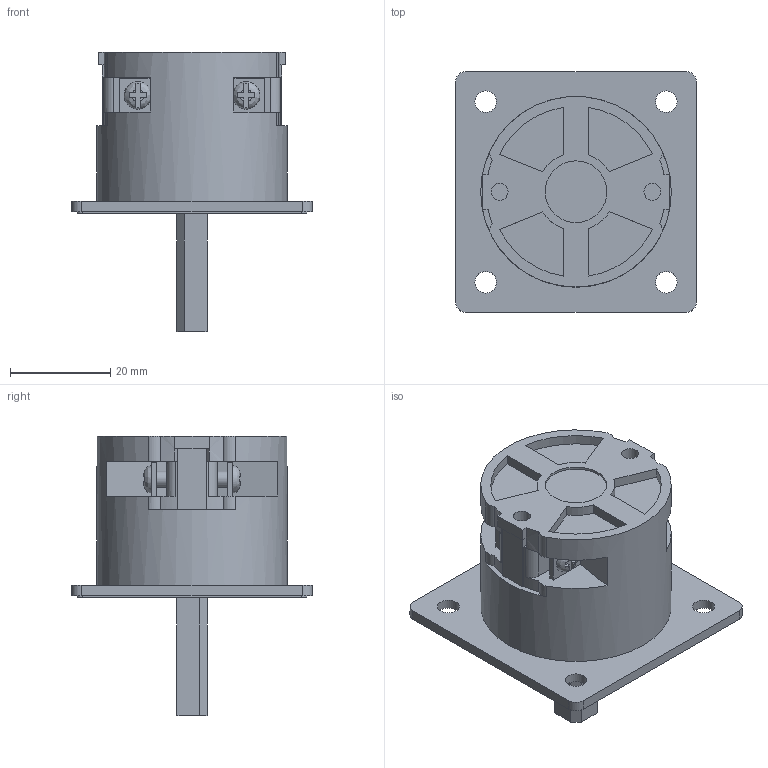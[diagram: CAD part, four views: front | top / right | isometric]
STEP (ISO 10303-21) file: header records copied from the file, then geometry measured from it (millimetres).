
FILE_DESCRIPTION(/* description */ (''),/* implementation_level */ '2;1');
FILE_NAME(/* name */ '4G10-U_standard_1_korpus.stp',/* time_stamp */ '2021-07-21T07:19:17+02:00',/* author */ (''),/* organization */ (''),/* preprocessor_version */ 'ST-DEVELOPER v18.1',/* originating_system */ 'SIEMENS PLM Software NX 1965',/* authorisation */ '');
FILE_SCHEMA (('AUTOMOTIVE_DESIGN { 1 0 10303 214 3 1 1 1 }'));
Length unit declared in the file: millimetre
Products named in the file (1): 4G10-U_standard_1_korpus_stp
Bounding box: 48 x 48 x 55.7 mm (x, y, z)
Volume: 35592.6 mm3; surface area: 12571.8 mm2
Topology: 1 solids, 1 shells, 305 faces, 790 edges, 520 vertices
Faces by surface type: plane 222, cylinder 77, bspline 4, torus 2
Full cylindrical faces by diameter (mm): 3.2 x4, 3.4 x3, 4.3 x4, 6.2 x2, 7.2 x4, 12.3 x1, 16.2 x1, 16.8 x1, 38 x1
Entity records: 9199 total; most frequent: CARTESIAN_POINT 1797, DIRECTION 1517, ORIENTED_EDGE 1494, EDGE_CURVE 747, AXIS2_PLACEMENT_3D 512, VERTEX_POINT 504, LINE 493, VECTOR 493
